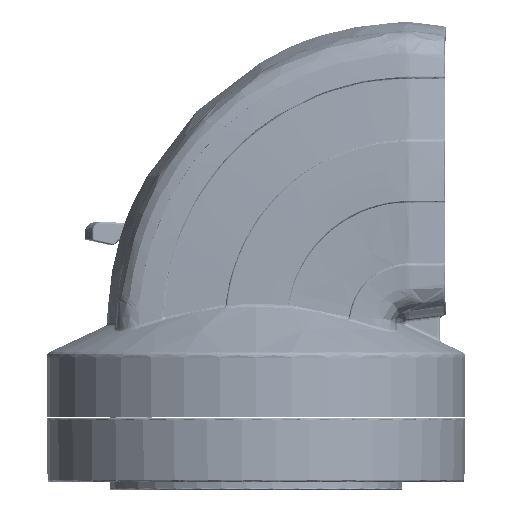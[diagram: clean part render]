
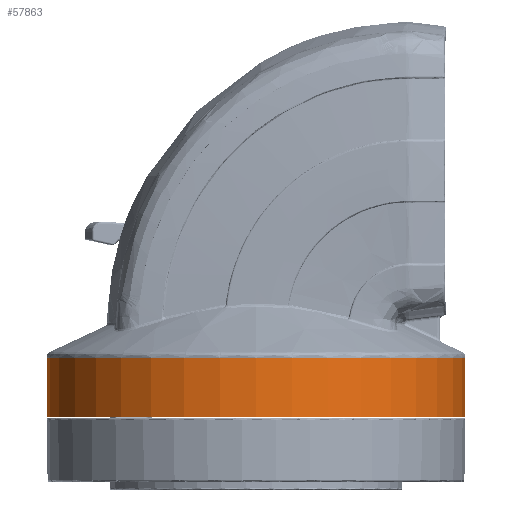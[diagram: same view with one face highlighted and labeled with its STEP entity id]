
A CAD part, left-side view. The second image highlights one B-rep face of the part: STEP entity #57863.
In plain terms, the highlighted cylindrical face has radius 65.675 mm (diameter 131.35 mm), a partial arc.
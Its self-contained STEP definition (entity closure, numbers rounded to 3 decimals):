
#4539 = CIRCLE ( 'NONE', #142021, 65.675 ) ;
#9134 = CARTESIAN_POINT ( 'NONE',  ( -43.181, 3.291, 103.368 ) ) ;
#15824 = AXIS2_PLACEMENT_3D ( 'NONE', #187492, #82947, #37126 ) ;
#16673 = VECTOR ( 'NONE', #68268, 1000. ) ;
#21868 = VERTEX_POINT ( 'NONE', #115384 ) ;
#24076 = CARTESIAN_POINT ( 'NONE',  ( 22.494, 3.291, 103.368 ) ) ;
#37126 = DIRECTION ( 'NONE',  ( 1., 0., 0. ) ) ;
#38479 = CARTESIAN_POINT ( 'NONE',  ( 88.169, 3.291, 121.886 ) ) ;
#42157 = CYLINDRICAL_SURFACE ( 'NONE', #15824, 65.675 ) ;
#51035 = VERTEX_POINT ( 'NONE', #9134 ) ;
#54718 = EDGE_CURVE ( 'NONE', #51035, #84749, #61712, .T. ) ;
#57038 = EDGE_CURVE ( 'NONE', #21868, #51035, #4539, .T. ) ;
#57863 = ADVANCED_FACE ( 'NONE', ( #196170 ), #42157, .T. ) ;
#58556 = CARTESIAN_POINT ( 'NONE',  ( 22.494, 3.291, 121.886 ) ) ;
#59489 = CARTESIAN_POINT ( 'NONE',  ( 88.169, 3.291, 103.368 ) ) ;
#61712 = LINE ( 'NONE', #159598, #16673 ) ;
#65125 = AXIS2_PLACEMENT_3D ( 'NONE', #58556, #104402, #178495 ) ;
#68268 = DIRECTION ( 'NONE',  ( 0., 0., 1. ) ) ;
#69531 = ORIENTED_EDGE ( 'NONE', *, *, #57038, .T. ) ;
#72203 = DIRECTION ( 'NONE',  ( 0., 0., 1. ) ) ;
#82947 = DIRECTION ( 'NONE',  ( 0., 0., 1. ) ) ;
#84749 = VERTEX_POINT ( 'NONE', #134047 ) ;
#99672 = DIRECTION ( 'NONE',  ( 1., 0., 0. ) ) ;
#104402 = DIRECTION ( 'NONE',  ( 0., 0., 1. ) ) ;
#105282 = ORIENTED_EDGE ( 'NONE', *, *, #196506, .F. ) ;
#106530 = VECTOR ( 'NONE', #72203, 1000. ) ;
#115384 = CARTESIAN_POINT ( 'NONE',  ( 88.169, 3.291, 103.368 ) ) ;
#122588 = ORIENTED_EDGE ( 'NONE', *, *, #54718, .T. ) ;
#126188 = CIRCLE ( 'NONE', #65125, 65.675 ) ;
#130072 = DIRECTION ( 'NONE',  ( 0., 0., 1. ) ) ;
#132988 = EDGE_CURVE ( 'NONE', #191504, #84749, #126188, .T. ) ;
#134047 = CARTESIAN_POINT ( 'NONE',  ( -43.181, 3.291, 121.886 ) ) ;
#142021 = AXIS2_PLACEMENT_3D ( 'NONE', #24076, #130072, #99672 ) ;
#159598 = CARTESIAN_POINT ( 'NONE',  ( -43.181, 3.291, 103.368 ) ) ;
#168844 = EDGE_LOOP ( 'NONE', ( #69531, #122588, #171188, #105282 ) ) ;
#170453 = LINE ( 'NONE', #59489, #106530 ) ;
#171188 = ORIENTED_EDGE ( 'NONE', *, *, #132988, .F. ) ;
#178495 = DIRECTION ( 'NONE',  ( 0., -1., 0. ) ) ;
#187492 = CARTESIAN_POINT ( 'NONE',  ( 22.494, 3.291, 103.368 ) ) ;
#191504 = VERTEX_POINT ( 'NONE', #38479 ) ;
#196170 = FACE_OUTER_BOUND ( 'NONE', #168844, .T. ) ;
#196506 = EDGE_CURVE ( 'NONE', #21868, #191504, #170453, .T. ) ;
